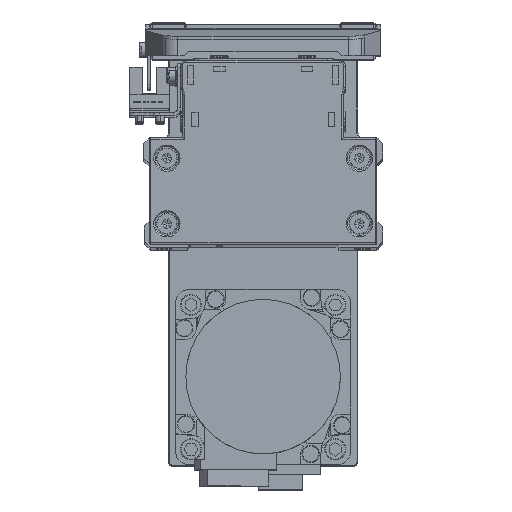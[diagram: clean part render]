
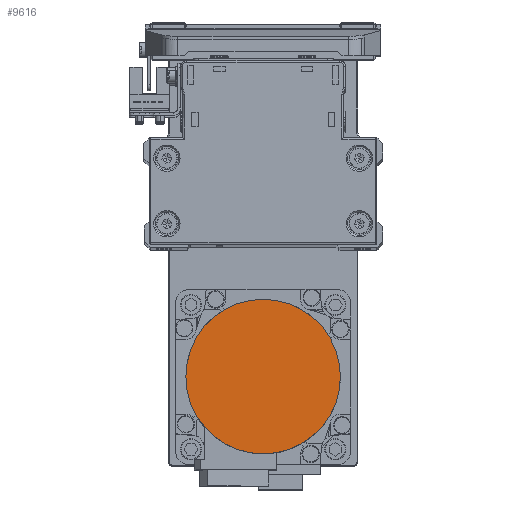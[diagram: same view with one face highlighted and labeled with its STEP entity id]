
A CAD part, top view. The second image highlights one B-rep face of the part: STEP entity #9616.
In plain terms, the highlighted planar face has unit normal (0, 0, 1) as drawn and (0, 0, -1) by its records, which use the part's own axes.
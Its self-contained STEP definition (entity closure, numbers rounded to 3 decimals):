
#1458 = CARTESIAN_POINT ( 'NONE',  ( 0., 0., -109.7 ) ) ;
#2841 = CIRCLE ( 'NONE', #25834, 26.5 ) ;
#6011 = VERTEX_POINT ( 'NONE', #11555 ) ;
#6841 = DIRECTION ( 'NONE',  ( 0., 0., 1. ) ) ;
#9616 = ADVANCED_FACE ( 'NONE', ( #9946 ), #22472, .F. ) ;
#9770 = CIRCLE ( 'NONE', #32749, 26.5 ) ;
#9946 = FACE_OUTER_BOUND ( 'NONE', #34543, .T. ) ;
#10145 = VERTEX_POINT ( 'NONE', #16889 ) ;
#11555 = CARTESIAN_POINT ( 'NONE',  ( 26.5, 0., -109.7 ) ) ;
#13464 = AXIS2_PLACEMENT_3D ( 'NONE', #35011, #6841, #19407 ) ;
#13720 = ORIENTED_EDGE ( 'NONE', *, *, #31087, .F. ) ;
#14025 = DIRECTION ( 'NONE',  ( 0., 0., 1. ) ) ;
#14918 = CARTESIAN_POINT ( 'NONE',  ( 0., 0., -109.7 ) ) ;
#16889 = CARTESIAN_POINT ( 'NONE',  ( -26.5, 0., -109.7 ) ) ;
#19407 = DIRECTION ( 'NONE',  ( 1., 0., 0. ) ) ;
#22472 = PLANE ( 'NONE',  #13464 ) ;
#24674 = EDGE_CURVE ( 'NONE', #6011, #10145, #9770, .T. ) ;
#25834 = AXIS2_PLACEMENT_3D ( 'NONE', #1458, #14025, #26564 ) ;
#26564 = DIRECTION ( 'NONE',  ( -1., 0., 0. ) ) ;
#27467 = DIRECTION ( 'NONE',  ( 0., 0., 1. ) ) ;
#30644 = ORIENTED_EDGE ( 'NONE', *, *, #24674, .F. ) ;
#31087 = EDGE_CURVE ( 'NONE', #10145, #6011, #2841, .T. ) ;
#32749 = AXIS2_PLACEMENT_3D ( 'NONE', #14918, #27467, #40025 ) ;
#34543 = EDGE_LOOP ( 'NONE', ( #13720, #30644 ) ) ;
#35011 = CARTESIAN_POINT ( 'NONE',  ( 0., 0., -109.7 ) ) ;
#40025 = DIRECTION ( 'NONE',  ( 1., 0., 0. ) ) ;
